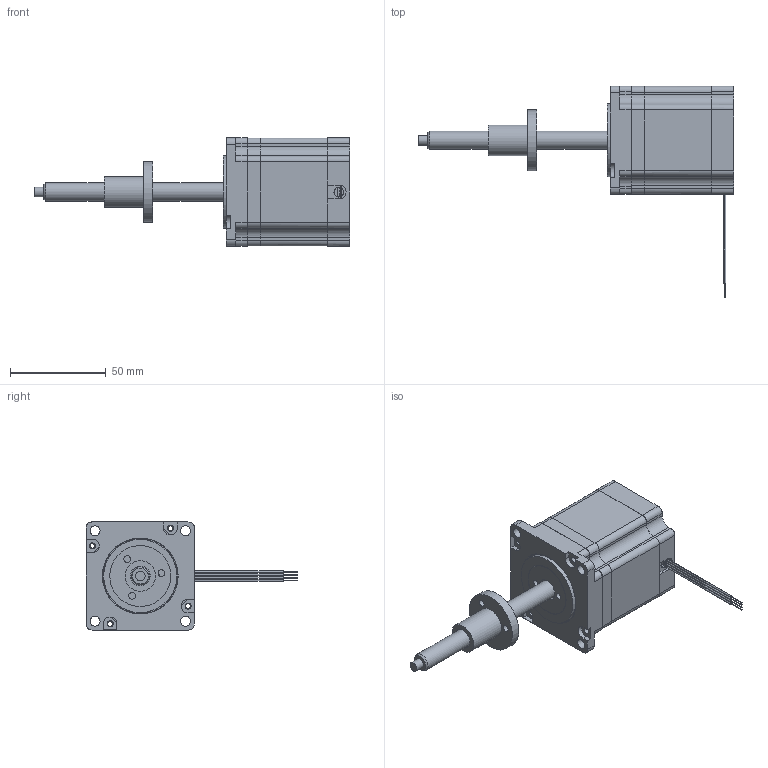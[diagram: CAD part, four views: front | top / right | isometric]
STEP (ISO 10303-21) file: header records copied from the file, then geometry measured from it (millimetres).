
FILE_DESCRIPTION( ('This file contains a STEP AP42 implementation' ,'as created by ZW3D STEP Interface translator.' ,'') ,'2;1' );
FILE_NAME( '57EC4X-XX-XXX.stp' ,'26 1 4. 84550', (''), ('ZWCAD Software Co.'), 'Version 1.0', 'ZW3D to STEP translator', '' );
FILE_SCHEMA(('AUTOMOTIVE_DESIGN { 1 0 10303 214 1 1 1 1 }'));
Length unit declared in the file: millimetre
Products named in the file (1): 0
Bounding box: 164.5 x 110.29 x 56.4 mm (x, y, z)
Volume: 73295.7 mm3; surface area: 54447.8 mm2
Topology: 8 solids, 8 shells, 603 faces, 1538 edges, 996 vertices
Faces by surface type: plane 317, cylinder 186, torus 44, bspline 35, cone 21
Full cylindrical faces by diameter (mm): 2.5 x10, 3.18 x4, 3.3 x18, 3.56 x3, 5 x1, 5.21 x4, 6.35 x1, 6.6 x1, 8 x2, 9.53 x2, 10.34 x2, 11.1 x1, 14.27 x1, 15.875 x1, 21.95 x1, 28 x4, 31.75 x1, 34.82 x2, 38.1 x1, 50.27 x2
Entity records: 19966 total; most frequent: CARTESIAN_POINT 4497, DIRECTION 3093, ORIENTED_EDGE 3072, EDGE_CURVE 1536, AXIS2_PLACEMENT_3D 1109, VERTEX_POINT 996, VECTOR 875, LINE 875
